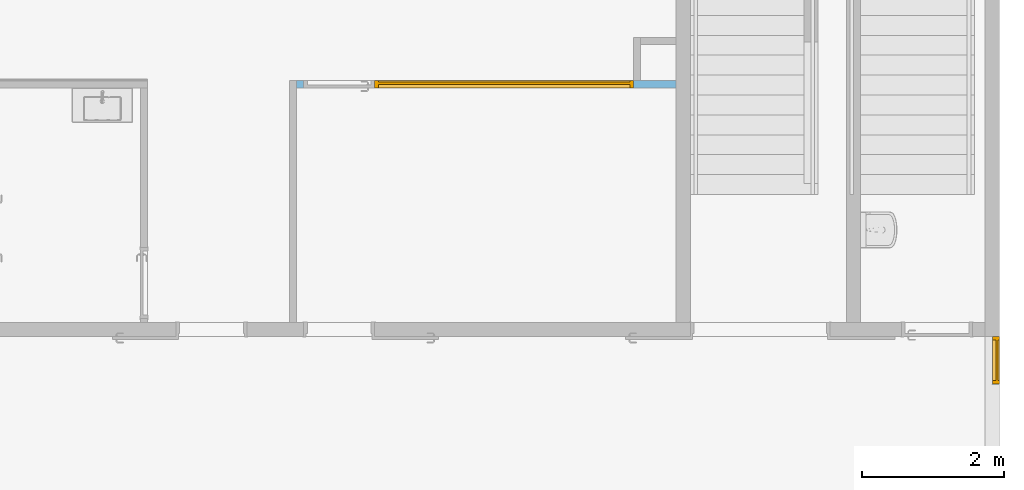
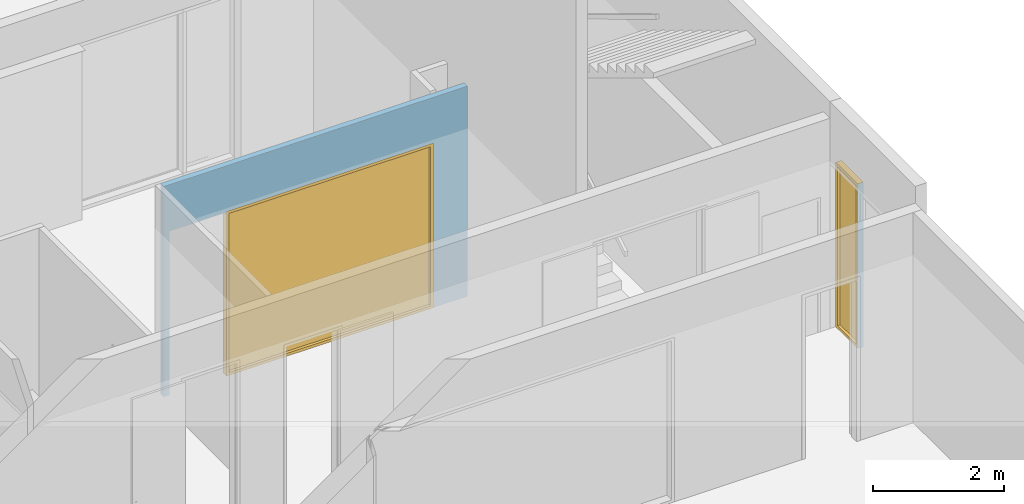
# One storey, part 227 of 240: 2 windows, 4 openings, plus 2 elements that do not belong to this part.
"""IFC2X3 building model written with IfcOpenShell, lengths in centimetres."""

from ifc_helpers import new_model, entity, si_unit, converted_unit, derived_unit, direction, frame, frame_2d, origin, origin_2d_with_axis, place, context, subcontext, project, spatial, rectangle, extrude, faceted_brep, source, transform, mapped, material, material_list, layer, layer_set, layer_usage, type_object, type_shapes, element, fill, save


model = new_model("IFC2X3")

# Units and contexts
model_context = context("Model", 3, precision=0.001, world=origin(), true_north=direction((6.12303176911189e-17, 1.0)))
body_context = subcontext(model_context, "Body", "Model", "MODEL_VIEW")
ifc_project = project(units=[si_unit("LENGTHUNIT", "METRE", prefix="CENTI"), si_unit("AREAUNIT", "SQUARE_METRE"), si_unit("VOLUMEUNIT", "CUBIC_METRE"), converted_unit("PLANEANGLEUNIT", "DEGREE", entity("IfcRatioMeasure", 0.0174532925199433), si_unit("PLANEANGLEUNIT", "RADIAN"), dimensions=[0, 0, 0, 0, 0, 0, 0]), si_unit("MASSUNIT", "GRAM", prefix="KILO"), derived_unit("MASSDENSITYUNIT", [(si_unit("MASSUNIT", "GRAM", prefix="KILO"), 1), (si_unit("LENGTHUNIT", "METRE"), -3)]), si_unit("TIMEUNIT", "SECOND"), si_unit("FREQUENCYUNIT", "HERTZ"), si_unit("THERMODYNAMICTEMPERATUREUNIT", "DEGREE_CELSIUS"), derived_unit("THERMALTRANSMITTANCEUNIT", [(si_unit("MASSUNIT", "GRAM", prefix="KILO"), 1), (si_unit("THERMODYNAMICTEMPERATUREUNIT", "KELVIN"), -1), (si_unit("TIMEUNIT", "SECOND"), -3)]), derived_unit("VOLUMETRICFLOWRATEUNIT", [(si_unit("LENGTHUNIT", "METRE"), 3), (si_unit("TIMEUNIT", "SECOND"), -1)]), si_unit("ELECTRICCURRENTUNIT", "AMPERE"), si_unit("ELECTRICVOLTAGEUNIT", "VOLT"), si_unit("POWERUNIT", "WATT"), si_unit("FORCEUNIT", "NEWTON", prefix="KILO"), si_unit("ILLUMINANCEUNIT", "LUX"), si_unit("LUMINOUSFLUXUNIT", "LUMEN"), si_unit("LUMINOUSINTENSITYUNIT", "CANDELA"), derived_unit("USERDEFINED", [(si_unit("MASSUNIT", "GRAM", prefix="KILO"), -1), (si_unit("LENGTHUNIT", "METRE"), -2), (si_unit("TIMEUNIT", "SECOND"), 3), (si_unit("LUMINOUSFLUXUNIT", "LUMEN"), 1)]), derived_unit("LINEARVELOCITYUNIT", [(si_unit("LENGTHUNIT", "METRE"), 1), (si_unit("TIMEUNIT", "SECOND"), -1)]), si_unit("PRESSUREUNIT", "PASCAL"), derived_unit("USERDEFINED", [(si_unit("LENGTHUNIT", "METRE"), -2), (si_unit("MASSUNIT", "GRAM", prefix="KILO"), 1), (si_unit("TIMEUNIT", "SECOND"), -2)])], contexts=[model_context])

# Site, building, storey
site_placement = place(None, frame((-2781.94577612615, 7442.24238424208, 0.0)))
site = spatial("IfcSite", under=ifc_project, at=site_placement, Name="Default", CompositionType="ELEMENT")
building_placement = place(site_placement, origin())
building = spatial("IfcBuilding", under=site, at=building_placement, CompositionType="ELEMENT")
storey_placement = place(building_placement, origin())
storey = spatial("IfcBuildingStorey", under=building, at=storey_placement, Name="N00 - COO", CompositionType="ELEMENT", Elevation=0.0)

# Wall, openings, window
ifc_material_1 = material(Name="01 - Enduit/Plâtre")
ifc_layer_1 = layer(ifc_material_1, 1.3)
ifc_material_2 = material(Name="00 - Isolant")
ifc_layer_2 = layer(ifc_material_2, 7.4)
ifc_layer_3 = layer(ifc_material_1, 1.3)
ifc_layer_set = layer_set([ifc_layer_1, ifc_layer_2, ifc_layer_3], Name="Mur de base:06 - cloisons - Ba13 10cm")
ifc_layer_usage_1 = layer_usage(ifc_layer_set, "AXIS2", "NEGATIVE", 5.0)
wall_type = type_object("IfcWallType", Name="Mur de base:06 - cloisons - Ba13 10cm", PredefinedType="STANDARD", material=ifc_layer_set)
wall_1_placement = place(building_placement, frame((-845.299882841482, -1575.0, 0.0), z_axis=(0.0, 0.0, 1.0), x_axis=(-1.0, 0.0, 0.0)))
wall_1 = element("IfcWallStandardCase", 1, at=wall_1_placement, inside=storey, type_object=wall_type, material=ifc_layer_usage_1, Name="Mur de base:06 - cloisons - Ba13 10cm", ObjectType="Mur de base:06 - cloisons - Ba13 10cm", context=body_context, shape_type="SweptSolid", body=[
    extrude(rectangle(XDim=534.199999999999, YDim=9.99999999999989, at=frame_2d((267.1, 0.0), x_axis=(-1.0, 0.0))), origin(), (0.0, 0.0, 1.0), 391.0),
])
opening_1_placement = place(wall_1_placement, frame((424.2, -5.0, 0.0)))
element("IfcOpeningElement", 2, at=opening_1_placement, cuts=wall_1, Name="Int. Simple:PV (0.93m x 3.00m):1", ObjectType="Opening", context=body_context, shape_type="SweptSolid", body=[
    extrude(rectangle(XDim=304.500000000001, YDim=99.9999999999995, at=frame_2d((152.250000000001, 49.9999999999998), x_axis=(1.0, 0.0))), frame((0.0, 0.0, 0.0), z_axis=(0.0, 1.0, 0.0), x_axis=(0.0, 0.0, 1.0)), (0.0, 0.0, 1.0), 10.0),
])
opening_2_placement = place(wall_1_placement, frame((60.0, -5.0, 0.0)))
opening_2 = element("IfcOpeningElement", 3, at=opening_2_placement, cuts=wall_1, Name="châssis intérieur vitré:RDC - Pignon -  châssis intérieur vitré (3.11m):1", ObjectType="Opening", context=body_context, shape_type="SweptSolid", body=[
    extrude(rectangle(XDim=306.0, YDim=364.2, at=frame_2d((153.0, 182.1), x_axis=(1.0, 0.0))), frame((0.0, 0.0, 0.0), z_axis=(0.0, 1.0, 0.0), x_axis=(0.0, 0.0, 1.0)), (0.0, 0.0, 1.0), 10.0),
])
ifc_material_3 = material(Name="Verre")
ifc_material_4 = material(Name="huisserie bois")
ifc_material_list_1 = material_list([ifc_material_3, ifc_material_4])
ifc_material_list_2 = material_list([ifc_material_3, ifc_material_4])
window_style_1 = type_object("IfcWindowStyle", Name="RDC - Pignon -  châssis intérieur vitré (3.11m)", ConstructionType="NOTDEFINED", OperationType="NOTDEFINED", ParameterTakesPrecedence=False, Sizeable=False, material=ifc_material_list_2)
shared_shape_1 = source(origin(), body_context, "Body", "Brep", [
    faceted_brep([(361.200000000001, 5.0, 303.0), (361.200000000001, 5.0, 3.0), (3.0, 5.0, 3.0), (3.0, 5.0, 303.0), (361.200000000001, 2.0, 303.0), (361.200000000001, 2.0, 3.0), (3.0, 2.0, 3.0), (3.0, 2.0, 303.0)], [[[0, 1, 2, 3]], [[1, 0, 4, 5]], [[2, 1, 5, 6]], [[3, 2, 6, 7]], [[4, 7, 6, 5]], [[0, 3, 7, 4]]]),
    faceted_brep([(361.200000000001, 2.0, 303.0), (361.200000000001, 0.0, 303.0), (361.200000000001, 0.0, 3.0), (361.200000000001, 2.0, 3.0), (359.200000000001, 0.0, 5.0), (5.0, 0.0, 5.0), (5.0, 0.0, 301.0), (359.200000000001, 0.0, 301.0), (3.0, 0.0, 303.0), (3.0, 0.0, 3.0), (3.0, 2.0, 3.0), (3.0, 2.0, 303.0), (359.200000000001, 2.0, 301.0), (5.0, 2.0, 301.0), (5.0, 2.0, 5.0), (359.200000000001, 2.0, 5.0)], [[[0, 1, 2, 3]], [[4, 5, 6, 7], [1, 8, 9, 2]], [[3, 2, 9, 10]], [[3, 10, 11, 0], [12, 13, 14, 15]], [[7, 12, 15, 4]], [[4, 15, 14, 5]], [[10, 9, 8, 11]], [[5, 14, 13, 6]], [[11, 8, 1, 0]], [[6, 13, 12, 7]]], outer=[[True], [False, True], [True], [True, False], [True], [True], [True], [True], [True], [True]]),
    faceted_brep([(359.200000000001, 5.0, 301.0), (359.200000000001, 10.0, 301.0), (359.200000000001, 10.0, 5.0), (359.200000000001, 5.0, 5.0), (364.2, 10.0, 0.0), (0.0, 10.0, 0.0), (0.0, 10.0, 306.0), (364.2, 10.0, 306.0), (5.0, 10.0, 301.0), (5.0, 10.0, 5.0), (5.0, 5.0, 5.0), (5.0, 5.0, 301.0), (361.200000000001, 5.0, 303.0), (3.0, 5.0, 303.0), (3.0, 5.0, 3.0), (361.200000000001, 5.0, 3.0), (361.200000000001, 0.0, 303.0), (361.200000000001, 0.0, 3.0), (3.0, 0.0, 3.0), (3.0, 0.0, 303.0), (364.2, 0.0, 306.0), (0.0, 0.0, 306.0), (0.0, 0.0, 0.0), (364.2, 0.0, 0.0)], [[[0, 1, 2, 3]], [[4, 5, 6, 7], [1, 8, 9, 2]], [[3, 2, 9, 10]], [[3, 10, 11, 0], [12, 13, 14, 15]], [[16, 12, 15, 17]], [[17, 15, 14, 18]], [[17, 18, 19, 16], [20, 21, 22, 23]], [[7, 20, 23, 4]], [[4, 23, 22, 5]], [[10, 9, 8, 11]], [[18, 14, 13, 19]], [[5, 22, 21, 6]], [[11, 8, 1, 0]], [[19, 13, 12, 16]], [[6, 21, 20, 7]]], outer=[[True], [True, False], [True], [False, True], [True], [True], [False, True], [True], [True], [True], [True], [True], [True], [True], [True]]),
])
type_shapes(window_style_1, [shared_shape_1])
window_1_placement = place(opening_2_placement, origin())
window_1 = element("IfcWindow", 4, at=window_1_placement, inside=storey, type_object=window_style_1, material=ifc_material_list_1, Name="châssis intérieur vitré:RDC - Pignon -  châssis intérieur vitré (3.11m)", ObjectType="châssis intérieur vitré:RDC - Pignon -  châssis intérieur vitré (3.11m)", OverallHeight=306.0, OverallWidth=364.199999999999, context=body_context, shape_type="MappedRepresentation", body=[
    mapped(shared_shape_1, transform((0.0, 0.0, 0.0), scale=1.0)),
])
fill(opening_2, window_1)

ifc_layer_usage_2 = layer_usage(ifc_layer_set, "AXIS2", "NEGATIVE", 5.0)
wall_2_placement = place(storey_placement, frame((-394.999882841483, -1997.16441285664, 0.0), z_axis=(0.0, 0.0, 1.0), x_axis=(0.0, -1.0, 0.0)))
wall_2 = element("IfcWallStandardCase", 5, at=wall_2_placement, inside=storey, type_object=wall_type, material=ifc_layer_usage_2, Name="Mur de base:06 - cloisons - Ba13 10cm", ObjectType="Mur de base:06 - cloisons - Ba13 10cm", context=body_context, shape_type="SweptSolid", body=[
    extrude(rectangle(XDim=0.235109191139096, YDim=10.0, at=frame_2d((0.117554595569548, 0.0), x_axis=(-1.0, 0.0))), origin(), (0.0, 0.0, 1.0), 306.0),
])
opening_3_placement = place(wall_2_placement, frame((-1997.16441285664, 394.999882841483, 0.0), z_axis=(0.0, 0.0, 1.0), x_axis=(0.0, 1.0, 0.0)))
element("IfcOpeningElement", 6, at=opening_3_placement, cuts=wall_2, Name="Mur de base:06 - cloisons - Ba13 10cm", ObjectType="Opening", context=body_context, shape_type="SweptSolid", body=[
    extrude(rectangle(XDim=321.0, YDim=192.757045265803, at=origin_2d_with_axis()), frame((-451.199882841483, -2093.77804468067, 145.5), z_axis=(1.0, 0.0, 0.0), x_axis=(0.0, 0.0, -1.0)), (0.0, 0.0, 1.0), 61.2999999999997),
])
opening_4_placement = place(wall_2_placement, frame((0.0, 5.0, 0.0)))
opening_4 = element("IfcOpeningElement", 7, at=opening_4_placement, cuts=wall_2, Name="châssis intérieur vitré:RDC - Pignon -  châssis intérieur vitré (3.11m):1", ObjectType="Opening", context=body_context, shape_type="SweptSolid", body=[
    extrude(rectangle(XDim=306.0, YDim=67.0078455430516, at=frame_2d((153.0, 33.5039227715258), x_axis=(1.0, 0.0))), frame((0.0, 0.0, 0.0), z_axis=(0.0, -1.0, 0.0), x_axis=(0.0, 0.0, 1.0)), (0.0, 0.0, 1.0), 10.0),
])
ifc_material_list_3 = material_list([ifc_material_3, ifc_material_4])
ifc_material_list_4 = material_list([ifc_material_3, ifc_material_4])
window_style_2 = type_object("IfcWindowStyle", Name="RDC - Pignon -  châssis intérieur vitré (3.11m)", ConstructionType="NOTDEFINED", OperationType="NOTDEFINED", ParameterTakesPrecedence=False, Sizeable=False, material=ifc_material_list_4)
shared_shape_2 = source(origin(), body_context, "Body", "Brep", [
    faceted_brep([(64.0078455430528, 5.0, 303.0), (64.0078455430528, 5.0, 3.0), (3.0, 5.0, 3.0), (3.0, 5.0, 303.0), (64.0078455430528, 2.0, 303.0), (64.0078455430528, 2.0, 3.0), (3.0, 2.0, 3.0), (3.0, 2.0, 303.0)], [[[0, 1, 2, 3]], [[1, 0, 4, 5]], [[2, 1, 5, 6]], [[3, 2, 6, 7]], [[4, 7, 6, 5]], [[0, 3, 7, 4]]]),
    faceted_brep([(64.0078455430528, 2.0, 303.0), (64.0078455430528, 0.0, 303.0), (64.0078455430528, 0.0, 3.0), (64.0078455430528, 2.0, 3.0), (62.0078455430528, 0.0, 5.0), (5.0, 0.0, 5.0), (5.0, 0.0, 301.0), (62.0078455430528, 0.0, 301.0), (3.0, 0.0, 303.0), (3.0, 0.0, 3.0), (3.0, 2.0, 3.0), (3.0, 2.0, 303.0), (62.0078455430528, 2.0, 301.0), (5.0, 2.0, 301.0), (5.0, 2.0, 5.0), (62.0078455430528, 2.0, 5.0)], [[[0, 1, 2, 3]], [[4, 5, 6, 7], [1, 8, 9, 2]], [[3, 2, 9, 10]], [[3, 10, 11, 0], [12, 13, 14, 15]], [[7, 12, 15, 4]], [[4, 15, 14, 5]], [[10, 9, 8, 11]], [[5, 14, 13, 6]], [[11, 8, 1, 0]], [[6, 13, 12, 7]]], outer=[[True], [False, True], [True], [True, False], [True], [True], [True], [True], [True], [True]]),
    faceted_brep([(62.0078455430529, 5.0, 301.0), (62.0078455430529, 10.0, 301.0), (62.0078455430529, 10.0, 5.0), (62.0078455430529, 5.0, 5.0), (67.0078455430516, 10.0, 0.0), (0.0, 10.0, 0.0), (0.0, 10.0, 306.0), (67.0078455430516, 10.0, 306.0), (5.0, 10.0, 301.0), (5.0, 10.0, 5.0), (5.0, 5.0, 5.0), (5.0, 5.0, 301.0), (64.0078455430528, 5.0, 303.0), (3.0, 5.0, 303.0), (3.0, 5.0, 3.0), (64.0078455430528, 5.0, 3.0), (64.0078455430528, 0.0, 303.0), (64.0078455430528, 0.0, 3.0), (3.0, 0.0, 3.0), (3.0, 0.0, 303.0), (67.0078455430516, 0.0, 306.0), (0.0, 0.0, 306.0), (0.0, 0.0, 0.0), (67.0078455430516, 0.0, 0.0)], [[[0, 1, 2, 3]], [[4, 5, 6, 7], [1, 8, 9, 2]], [[3, 2, 9, 10]], [[3, 10, 11, 0], [12, 13, 14, 15]], [[16, 12, 15, 17]], [[17, 15, 14, 18]], [[17, 18, 19, 16], [20, 21, 22, 23]], [[7, 20, 23, 4]], [[4, 23, 22, 5]], [[10, 9, 8, 11]], [[18, 14, 13, 19]], [[5, 22, 21, 6]], [[11, 8, 1, 0]], [[19, 13, 12, 16]], [[6, 21, 20, 7]]], outer=[[True], [True, False], [True], [False, True], [True], [True], [False, True], [True], [True], [True], [True], [True], [True], [True], [True]]),
])
type_shapes(window_style_2, [shared_shape_2])
window_2_placement = place(opening_4_placement, frame((0.0, 0.0, 0.0), z_axis=(0.0, 0.0, 1.0), x_axis=(-1.0, 0.0, 0.0)))
window_2 = element("IfcWindow", 8, at=window_2_placement, inside=storey, type_object=window_style_2, material=ifc_material_list_3, Name="châssis intérieur vitré:RDC - Pignon -  châssis intérieur vitré (3.11m)", ObjectType="châssis intérieur vitré:RDC - Pignon -  châssis intérieur vitré (3.11m)", OverallHeight=306.0, OverallWidth=67.0078455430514, context=body_context, shape_type="MappedRepresentation", body=[
    mapped(shared_shape_2, transform((0.0, 0.0, 0.0), scale=1.0)),
])
fill(opening_4, window_2)

save(model, "model.ifc")
